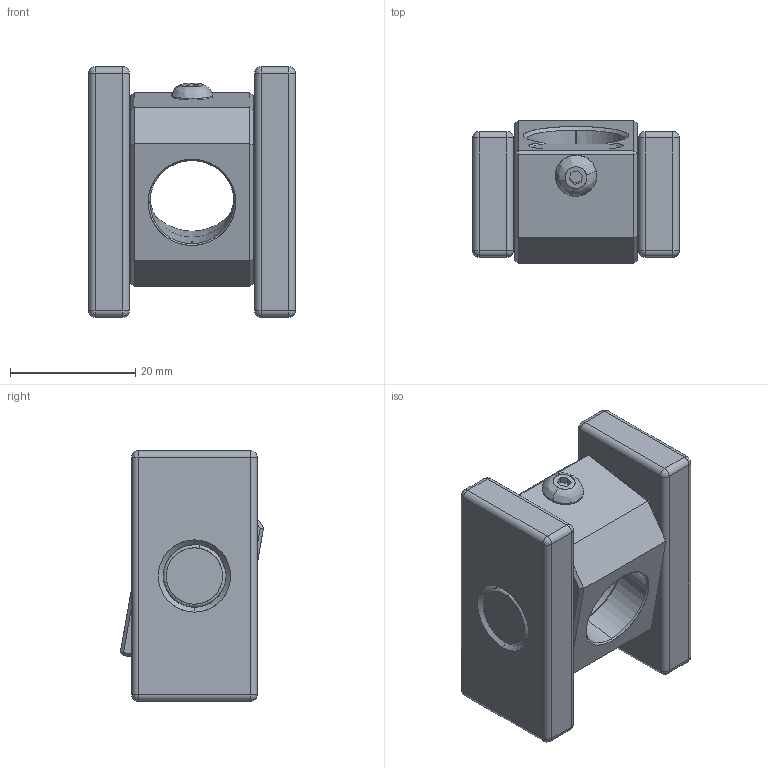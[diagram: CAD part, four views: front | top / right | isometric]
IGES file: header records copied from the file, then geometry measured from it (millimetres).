
Start section: SolidWorks IGES file using analytic representation for surfaces
Global section: file name: C:\Users\365admin\AppData\Local\Temp\InFlowXlateWorking\RCC063.igs; native system: SolidWorks 2017; preprocessor: SolidWorks 2017; author: 365admin; date: 190503.095602; units: inch
Bounding box: 33 x 22.84 x 40 mm (x, y, z)
Surface area: 8924.4 mm2 (no closed solid volume)
Topology: 0 solids, 0 shells, 159 faces, 1561 edges, 1549 vertices
Faces by surface type: revolution 87, bspline 72
